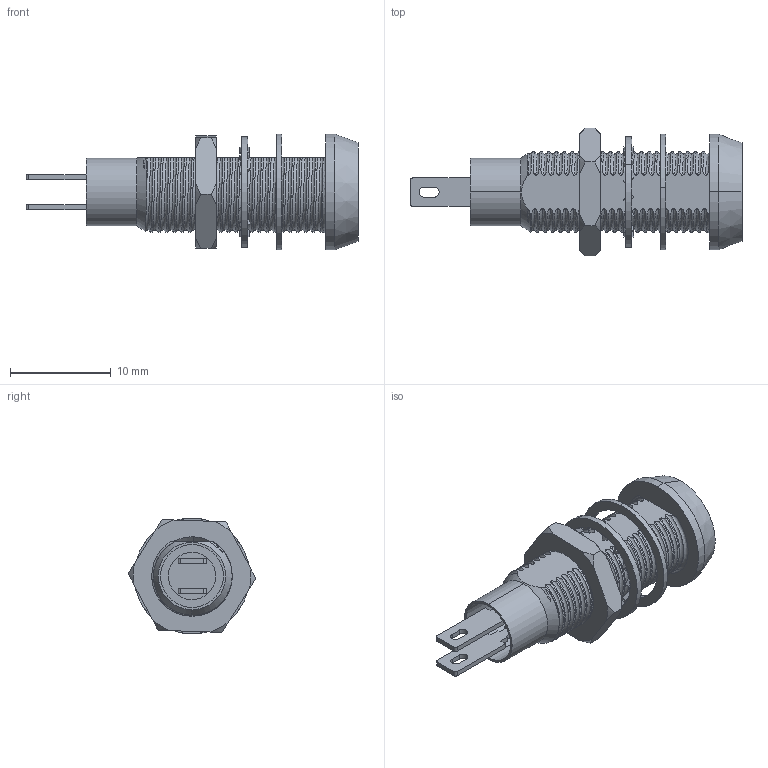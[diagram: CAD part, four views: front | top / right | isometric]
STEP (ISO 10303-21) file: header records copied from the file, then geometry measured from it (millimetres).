
FILE_DESCRIPTION (( 'STEP AP203' ), '1' );
FILE_NAME ('677series.STEP', '2014-12-04T10:24:53', ( 'mark' ), ( '' ), 'SwSTEP 2.0', 'SolidWorks 2014', '' );
FILE_SCHEMA (( 'CONFIG_CONTROL_DESIGN' ));
Products named in the file (7): com3324_PARALLEL; 7FD red; 677series; COM3554-C_Threaded; COM2212; COM2236; COM3577
Assembly tree (6 placements, depth 2):
  677series
    COM3554-C_Threaded
    COM2212
    COM2236
    COM3577
    com3324_PARALLEL
    7FD red
Bounding box: 33 x 12.69 x 11.5 mm (x, y, z)
Volume: 718.3 mm3; surface area: 2097.9 mm2
Topology: 7 solids, 7 shells, 391 faces, 1100 edges, 727 vertices
Faces by surface type: plane 132, cylinder 120, bspline 105, cone 26, torus 8
Entity records: 180038 total; most frequent: CARTESIAN_POINT 170773, ORIENTED_EDGE 2200, DIRECTION 1327, EDGE_CURVE 1100, VERTEX_POINT 727, AXIS2_PLACEMENT_3D 458, LINE 411, VECTOR 411
